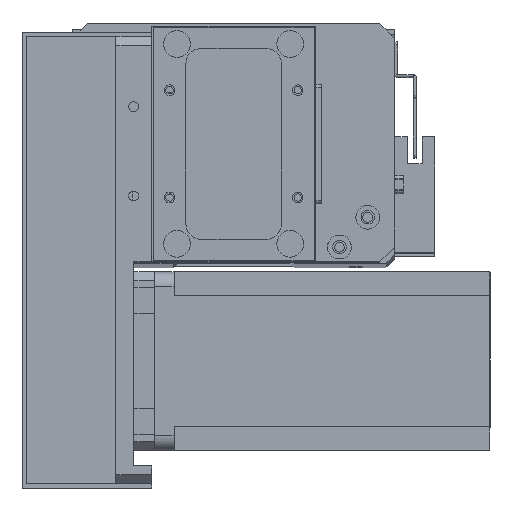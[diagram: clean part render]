
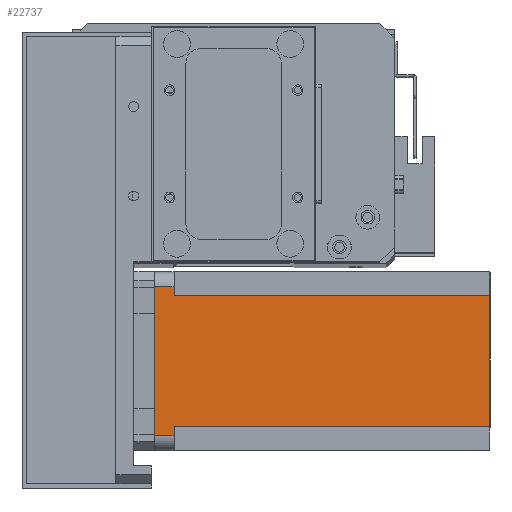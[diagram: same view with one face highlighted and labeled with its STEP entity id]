
A CAD part, top view. The second image highlights one B-rep face of the part: STEP entity #22737.
In plain terms, the highlighted planar face has unit normal (0, 0, 1) as drawn and (0, 1, 0) by its records, which use the part's own axes.
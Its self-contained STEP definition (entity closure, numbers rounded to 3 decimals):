
#76 = CARTESIAN_POINT ( 'NONE',  ( 5., 60., -112.5 ) ) ;
#299 = DIRECTION ( 'NONE',  ( -1., 0., 0. ) ) ;
#310 = CARTESIAN_POINT ( 'NONE',  ( 5., 60., 0. ) ) ;
#633 = DIRECTION ( 'NONE',  ( 0., 0., 1. ) ) ;
#1655 = CARTESIAN_POINT ( 'NONE',  ( 52., 60., -6.5 ) ) ;
#2019 = PLANE ( 'NONE',  #8797 ) ;
#2625 = CARTESIAN_POINT ( 'NONE',  ( 55., 60., -6.5 ) ) ;
#2650 = VERTEX_POINT ( 'NONE', #2625 ) ;
#3279 = VERTEX_POINT ( 'NONE', #26432 ) ;
#3300 = EDGE_CURVE ( 'NONE', #12328, #3279, #12230, .T. ) ;
#3764 = CARTESIAN_POINT ( 'NONE',  ( 5., 60., -6.5 ) ) ;
#3766 = DIRECTION ( 'NONE',  ( 1., 0., 0. ) ) ;
#3862 = VERTEX_POINT ( 'NONE', #310 ) ;
#4113 = CARTESIAN_POINT ( 'NONE',  ( 52., 60., -6.5 ) ) ;
#4685 = ORIENTED_EDGE ( 'NONE', *, *, #28584, .T. ) ;
#5137 = VECTOR ( 'NONE', #3766, 1000. ) ;
#5291 = CARTESIAN_POINT ( 'NONE',  ( 52., 60., -112.5 ) ) ;
#6077 = CARTESIAN_POINT ( 'NONE',  ( 55., 60., 0. ) ) ;
#6518 = EDGE_CURVE ( 'NONE', #7444, #3279, #9863, .T. ) ;
#6619 = ORIENTED_EDGE ( 'NONE', *, *, #9682, .F. ) ;
#6836 = CARTESIAN_POINT ( 'NONE',  ( 0., 60., -112.5 ) ) ;
#7444 = VERTEX_POINT ( 'NONE', #14472 ) ;
#7632 = LINE ( 'NONE', #24779, #19339 ) ;
#7737 = ORIENTED_EDGE ( 'NONE', *, *, #12829, .T. ) ;
#8101 = EDGE_CURVE ( 'NONE', #7444, #14497, #18802, .T. ) ;
#8193 = VERTEX_POINT ( 'NONE', #6077 ) ;
#8330 = VECTOR ( 'NONE', #16975, 1000. ) ;
#8397 = DIRECTION ( 'NONE',  ( -1., 0., 0. ) ) ;
#8797 = AXIS2_PLACEMENT_3D ( 'NONE', #6836, #23009, #9221 ) ;
#9070 = LINE ( 'NONE', #21415, #8330 ) ;
#9141 = VECTOR ( 'NONE', #8397, 1000. ) ;
#9221 = DIRECTION ( 'NONE',  ( 0., 0., 1. ) ) ;
#9682 = EDGE_CURVE ( 'NONE', #14497, #2650, #23625, .T. ) ;
#9863 = LINE ( 'NONE', #24624, #16120 ) ;
#9910 = FACE_OUTER_BOUND ( 'NONE', #27895, .T. ) ;
#10984 = LINE ( 'NONE', #76, #29838 ) ;
#12230 = LINE ( 'NONE', #23928, #23663 ) ;
#12328 = VERTEX_POINT ( 'NONE', #26151 ) ;
#12829 = EDGE_CURVE ( 'NONE', #8193, #2650, #9070, .T. ) ;
#14406 = VERTEX_POINT ( 'NONE', #3764 ) ;
#14472 = CARTESIAN_POINT ( 'NONE',  ( 52., 60., -112.5 ) ) ;
#14497 = VERTEX_POINT ( 'NONE', #1655 ) ;
#14740 = ORIENTED_EDGE ( 'NONE', *, *, #24473, .F. ) ;
#15376 = LINE ( 'NONE', #19896, #9141 ) ;
#16120 = VECTOR ( 'NONE', #299, 1000. ) ;
#16681 = DIRECTION ( 'NONE',  ( 0., 0., 1. ) ) ;
#16975 = DIRECTION ( 'NONE',  ( 0., 0., -1. ) ) ;
#18709 = ORIENTED_EDGE ( 'NONE', *, *, #3300, .F. ) ;
#18802 = LINE ( 'NONE', #5291, #19486 ) ;
#19339 = VECTOR ( 'NONE', #29296, 1000. ) ;
#19486 = VECTOR ( 'NONE', #633, 1000. ) ;
#19896 = CARTESIAN_POINT ( 'NONE',  ( 8., 60., -6.5 ) ) ;
#21415 = CARTESIAN_POINT ( 'NONE',  ( 55., 60., -112.5 ) ) ;
#22737 = ADVANCED_FACE ( 'NONE', ( #9910 ), #2019, .T. ) ;
#23009 = DIRECTION ( 'NONE',  ( 0., 1., 0. ) ) ;
#23625 = LINE ( 'NONE', #4113, #5137 ) ;
#23663 = VECTOR ( 'NONE', #23888, 1000. ) ;
#23888 = DIRECTION ( 'NONE',  ( 0., 0., -1. ) ) ;
#23928 = CARTESIAN_POINT ( 'NONE',  ( 8., 60., -112.5 ) ) ;
#24114 = EDGE_CURVE ( 'NONE', #14406, #3862, #10984, .T. ) ;
#24473 = EDGE_CURVE ( 'NONE', #8193, #3862, #7632, .T. ) ;
#24596 = ORIENTED_EDGE ( 'NONE', *, *, #6518, .T. ) ;
#24624 = CARTESIAN_POINT ( 'NONE',  ( 0., 60., -112.5 ) ) ;
#24779 = CARTESIAN_POINT ( 'NONE',  ( 0., 60., 0. ) ) ;
#26151 = CARTESIAN_POINT ( 'NONE',  ( 8., 60., -6.5 ) ) ;
#26432 = CARTESIAN_POINT ( 'NONE',  ( 8., 60., -112.5 ) ) ;
#27895 = EDGE_LOOP ( 'NONE', ( #14740, #7737, #6619, #28113, #24596, #18709, #4685, #29493 ) ) ;
#28113 = ORIENTED_EDGE ( 'NONE', *, *, #8101, .F. ) ;
#28584 = EDGE_CURVE ( 'NONE', #12328, #14406, #15376, .T. ) ;
#29296 = DIRECTION ( 'NONE',  ( -1., 0., 0. ) ) ;
#29493 = ORIENTED_EDGE ( 'NONE', *, *, #24114, .T. ) ;
#29838 = VECTOR ( 'NONE', #16681, 1000. ) ;
